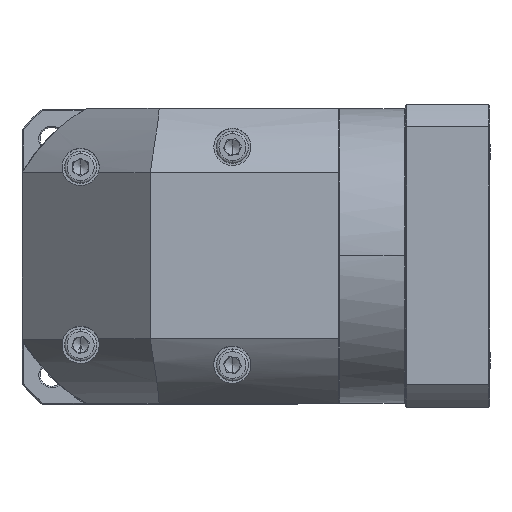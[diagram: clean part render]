
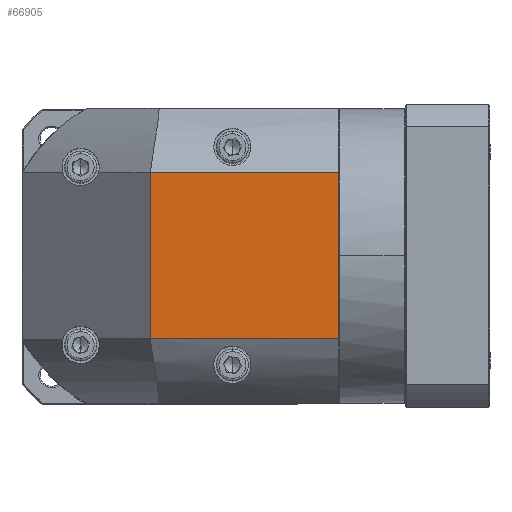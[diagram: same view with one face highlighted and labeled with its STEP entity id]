
A CAD part, top view. The second image highlights one B-rep face of the part: STEP entity #66905.
In plain terms, the highlighted planar face has unit normal (0, 0, 1).
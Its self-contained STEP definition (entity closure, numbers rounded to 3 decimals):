
#6579 = CARTESIAN_POINT ( 'NONE',  ( 40.715, 102.234, 73.117 ) ) ;
#16172 = DIRECTION ( 'NONE',  ( 0., -1., 0. ) ) ;
#16766 = ORIENTED_EDGE ( 'NONE', *, *, #63396, .F. ) ;
#22511 = DIRECTION ( 'NONE',  ( 0., 1., 0. ) ) ;
#29823 = VECTOR ( 'NONE', #118004, 1000. ) ;
#37112 = PLANE ( 'NONE',  #42688 ) ;
#40520 = DIRECTION ( 'NONE',  ( 1., 0., 0. ) ) ;
#42688 = AXIS2_PLACEMENT_3D ( 'NONE', #58115, #79973, #16172 ) ;
#44274 = LINE ( 'NONE', #108702, #119334 ) ;
#46991 = VERTEX_POINT ( 'NONE', #83662 ) ;
#50406 = EDGE_LOOP ( 'NONE', ( #16766, #116692, #64243, #103828 ) ) ;
#53246 = VECTOR ( 'NONE', #40520, 1000. ) ;
#55088 = VERTEX_POINT ( 'NONE', #110855 ) ;
#58115 = CARTESIAN_POINT ( 'NONE',  ( 48.215, 69.834, 73.117 ) ) ;
#63396 = EDGE_CURVE ( 'NONE', #63683, #46991, #118399, .T. ) ;
#63683 = VERTEX_POINT ( 'NONE', #6579 ) ;
#64243 = ORIENTED_EDGE ( 'NONE', *, *, #128096, .F. ) ;
#66905 = ADVANCED_FACE ( 'NONE', ( #105373 ), #37112, .F. ) ;
#76249 = VERTEX_POINT ( 'NONE', #114836 ) ;
#79794 = LINE ( 'NONE', #96078, #29823 ) ;
#79973 = DIRECTION ( 'NONE',  ( 0., 0., -1. ) ) ;
#83662 = CARTESIAN_POINT ( 'NONE',  ( 114.115, 102.234, 73.117 ) ) ;
#85993 = VECTOR ( 'NONE', #89256, 1000. ) ;
#89256 = DIRECTION ( 'NONE',  ( -1., 0., 0. ) ) ;
#89320 = EDGE_CURVE ( 'NONE', #46991, #55088, #79794, .T. ) ;
#94773 = EDGE_CURVE ( 'NONE', #76249, #63683, #44274, .T. ) ;
#96078 = CARTESIAN_POINT ( 'NONE',  ( 114.115, 127.334, 73.117 ) ) ;
#102511 = CARTESIAN_POINT ( 'NONE',  ( -9.285, 102.234, 73.117 ) ) ;
#103828 = ORIENTED_EDGE ( 'NONE', *, *, #89320, .F. ) ;
#105373 = FACE_OUTER_BOUND ( 'NONE', #50406, .T. ) ;
#108702 = CARTESIAN_POINT ( 'NONE',  ( 40.715, 127.334, 73.117 ) ) ;
#110855 = CARTESIAN_POINT ( 'NONE',  ( 114.115, 37.434, 73.117 ) ) ;
#114836 = CARTESIAN_POINT ( 'NONE',  ( 40.715, 37.434, 73.117 ) ) ;
#116692 = ORIENTED_EDGE ( 'NONE', *, *, #94773, .F. ) ;
#118004 = DIRECTION ( 'NONE',  ( 0., -1., 0. ) ) ;
#118399 = LINE ( 'NONE', #102511, #53246 ) ;
#119334 = VECTOR ( 'NONE', #22511, 1000. ) ;
#119592 = CARTESIAN_POINT ( 'NONE',  ( -9.285, 37.434, 73.117 ) ) ;
#128096 = EDGE_CURVE ( 'NONE', #55088, #76249, #129350, .T. ) ;
#129350 = LINE ( 'NONE', #119592, #85993 ) ;
